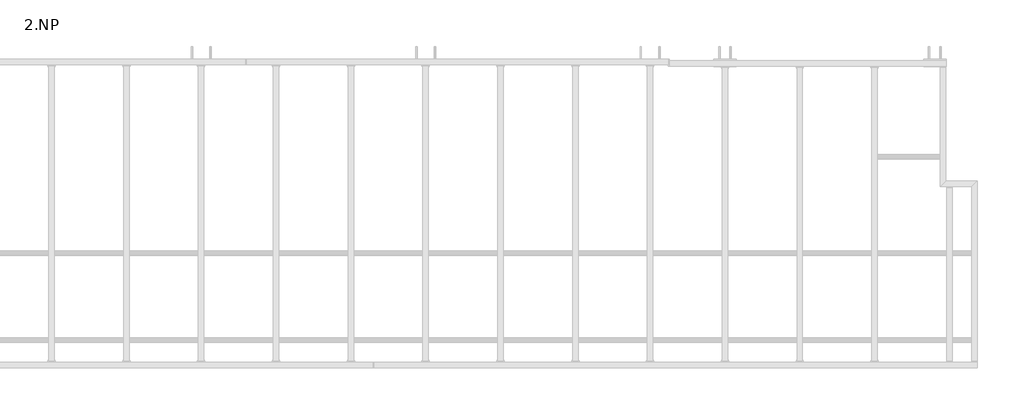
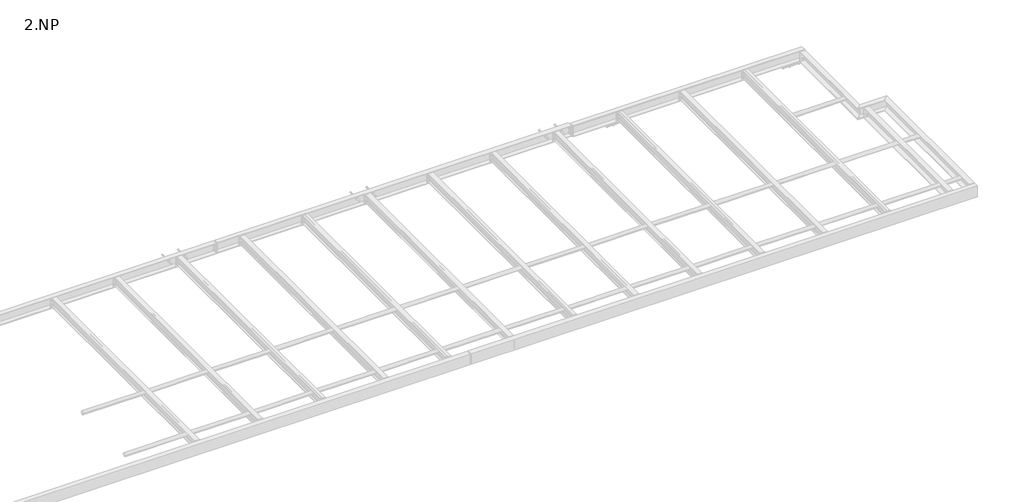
# One storey, part 17 of 18: 29 assemblies.
"""IFC4 building model written with IfcOpenShell, lengths in millimetres."""

from ifc_helpers import new_model, si_unit, point, frame, frame_2d, origin, place, context, project, spatial, polyline, circle_curve, trimmed, segment, composite_curve, outline, extrude, element, save

model = new_model("IFC4")

# Units and contexts
model_context = context("Model", 3, world=origin())
ifc_project = project(units=[si_unit("LENGTHUNIT", "METRE", prefix="MILLI")], contexts=[model_context])

# Site, building, storey
site = spatial("IfcSite", under=ifc_project)
building = spatial("IfcBuilding", under=site)
storey = spatial("IfcBuildingStorey", under=building, Name="2.NP", Elevation=3000.0)

# Assemblies
placement = place(None, origin())
element("IfcElementAssembly", 1, at=placement, inside=storey, context=model_context, shape_type="SweptSolid", body=[
    extrude(outline(composite_curve([segment(trimmed(circle_curve(frame_2d((1260.0, 3230.0)), 30.15), [point((1290.15, 3230.0))], [point((1229.85, 3230.0))], False, "CARTESIAN"), True, "CONTINUOUS"), segment(trimmed(circle_curve(frame_2d((1260.0, 3230.0)), 30.15), [point((1229.85, 3230.0))], [point((1290.15, 3230.0))], False, "CARTESIAN"), True, "CONTINUOUS")], self_intersect=False), holes=[composite_curve([segment(trimmed(circle_curve(frame_2d((1260.0, 3230.0)), 25.15), [point((1285.15, 3230.0))], [point((1234.85, 3230.0))], True, "CARTESIAN"), True, "CONTINUOUS"), segment(trimmed(circle_curve(frame_2d((1260.0, 3230.0)), 25.15), [point((1234.85, 3230.0))], [point((1285.15, 3230.0))], True, "CARTESIAN"), True, "CONTINUOUS")], self_intersect=False)]), frame((6052.35, 0.0, 0.0), z_axis=(1.0, 0.0, 0.0), x_axis=(0.0, 1.0, 0.0)), (0.0, 0.0, 1.0), 995.3),
])
element("IfcElementAssembly", 2, at=placement, inside=storey, context=model_context, shape_type="SweptSolid", body=[
    extrude(outline(composite_curve([segment(trimmed(circle_curve(frame_2d((1260.0, 3230.0)), 30.15), [point((1290.15, 3230.0))], [point((1229.85, 3230.0))], False, "CARTESIAN"), True, "CONTINUOUS"), segment(trimmed(circle_curve(frame_2d((1260.0, 3230.0)), 30.15), [point((1229.85, 3230.0))], [point((1290.15, 3230.0))], False, "CARTESIAN"), True, "CONTINUOUS")], self_intersect=False), holes=[composite_curve([segment(trimmed(circle_curve(frame_2d((1260.0, 3230.0)), 25.15), [point((1285.15, 3230.0))], [point((1234.85, 3230.0))], True, "CARTESIAN"), True, "CONTINUOUS"), segment(trimmed(circle_curve(frame_2d((1260.0, 3230.0)), 25.15), [point((1234.85, 3230.0))], [point((1285.15, 3230.0))], True, "CARTESIAN"), True, "CONTINUOUS")], self_intersect=False)]), frame((7052.35, 0.0, 0.0), z_axis=(1.0, 0.0, 0.0), x_axis=(0.0, 1.0, 0.0)), (0.0, 0.0, 1.0), 995.3),
])
element("IfcElementAssembly", 3, at=placement, inside=storey, context=model_context, shape_type="SweptSolid", body=[
    extrude(outline(composite_curve([segment(trimmed(circle_curve(frame_2d((1260.0, 3230.0)), 30.15), [point((1290.15, 3230.0))], [point((1229.85, 3230.0))], False, "CARTESIAN"), True, "CONTINUOUS"), segment(trimmed(circle_curve(frame_2d((1260.0, 3230.0)), 30.15), [point((1229.85, 3230.0))], [point((1290.15, 3230.0))], False, "CARTESIAN"), True, "CONTINUOUS")], self_intersect=False), holes=[composite_curve([segment(trimmed(circle_curve(frame_2d((1260.0, 3230.0)), 25.15), [point((1285.15, 3230.0))], [point((1234.85, 3230.0))], True, "CARTESIAN"), True, "CONTINUOUS"), segment(trimmed(circle_curve(frame_2d((1260.0, 3230.0)), 25.15), [point((1234.85, 3230.0))], [point((1285.15, 3230.0))], True, "CARTESIAN"), True, "CONTINUOUS")], self_intersect=False)]), frame((8052.35, 0.0, 0.0), z_axis=(1.0, 0.0, 0.0), x_axis=(0.0, 1.0, 0.0)), (0.0, 0.0, 1.0), 995.3),
])
element("IfcElementAssembly", 4, at=placement, inside=storey, context=model_context, shape_type="SweptSolid", body=[
    extrude(outline(composite_curve([segment(trimmed(circle_curve(frame_2d((1260.0, 3230.0)), 30.15), [point((1290.15, 3230.0))], [point((1229.85, 3230.0))], False, "CARTESIAN"), True, "CONTINUOUS"), segment(trimmed(circle_curve(frame_2d((1260.0, 3230.0)), 30.15), [point((1229.85, 3230.0))], [point((1290.15, 3230.0))], False, "CARTESIAN"), True, "CONTINUOUS")], self_intersect=False), holes=[composite_curve([segment(trimmed(circle_curve(frame_2d((1260.0, 3230.0)), 25.15), [point((1285.15, 3230.0))], [point((1234.85, 3230.0))], True, "CARTESIAN"), True, "CONTINUOUS"), segment(trimmed(circle_curve(frame_2d((1260.0, 3230.0)), 25.15), [point((1234.85, 3230.0))], [point((1285.15, 3230.0))], True, "CARTESIAN"), True, "CONTINUOUS")], self_intersect=False)]), frame((9052.35, 0.0, 0.0), z_axis=(1.0, 0.0, 0.0), x_axis=(0.0, 1.0, 0.0)), (0.0, 0.0, 1.0), 995.3),
])
element("IfcElementAssembly", 5, at=placement, inside=storey, context=model_context, shape_type="SweptSolid", body=[
    extrude(outline(composite_curve([segment(trimmed(circle_curve(frame_2d((1260.0, 3230.0)), 30.15), [point((1290.15, 3230.0))], [point((1229.85, 3230.0))], False, "CARTESIAN"), True, "CONTINUOUS"), segment(trimmed(circle_curve(frame_2d((1260.0, 3230.0)), 30.15), [point((1229.85, 3230.0))], [point((1290.15, 3230.0))], False, "CARTESIAN"), True, "CONTINUOUS")], self_intersect=False), holes=[composite_curve([segment(trimmed(circle_curve(frame_2d((1260.0, 3230.0)), 25.15), [point((1285.15, 3230.0))], [point((1234.85, 3230.0))], True, "CARTESIAN"), True, "CONTINUOUS"), segment(trimmed(circle_curve(frame_2d((1260.0, 3230.0)), 25.15), [point((1234.85, 3230.0))], [point((1285.15, 3230.0))], True, "CARTESIAN"), True, "CONTINUOUS")], self_intersect=False)]), frame((10052.35, 0.0, 0.0), z_axis=(1.0, 0.0, 0.0), x_axis=(0.0, 1.0, 0.0)), (0.0, 0.0, 1.0), 995.3),
])
element("IfcElementAssembly", 6, at=placement, inside=storey, context=model_context, shape_type="SweptSolid", body=[
    extrude(outline(composite_curve([segment(trimmed(circle_curve(frame_2d((1260.0, 3230.0)), 30.15), [point((1290.15, 3230.0))], [point((1229.85, 3230.0))], False, "CARTESIAN"), True, "CONTINUOUS"), segment(trimmed(circle_curve(frame_2d((1260.0, 3230.0)), 30.15), [point((1229.85, 3230.0))], [point((1290.15, 3230.0))], False, "CARTESIAN"), True, "CONTINUOUS")], self_intersect=False), holes=[composite_curve([segment(trimmed(circle_curve(frame_2d((1260.0, 3230.0)), 25.15), [point((1285.15, 3230.0))], [point((1234.85, 3230.0))], True, "CARTESIAN"), True, "CONTINUOUS"), segment(trimmed(circle_curve(frame_2d((1260.0, 3230.0)), 25.15), [point((1234.85, 3230.0))], [point((1285.15, 3230.0))], True, "CARTESIAN"), True, "CONTINUOUS")], self_intersect=False)]), frame((11052.35, 0.0, 0.0), z_axis=(1.0, 0.0, 0.0), x_axis=(0.0, 1.0, 0.0)), (0.0, 0.0, 1.0), 995.3),
])
element("IfcElementAssembly", 7, at=placement, inside=storey, context=model_context, shape_type="SweptSolid", body=[
    extrude(outline(composite_curve([segment(trimmed(circle_curve(frame_2d((1260.0, 3230.0)), 30.15), [point((1290.15, 3230.0))], [point((1229.85, 3230.0))], False, "CARTESIAN"), True, "CONTINUOUS"), segment(trimmed(circle_curve(frame_2d((1260.0, 3230.0)), 30.15), [point((1229.85, 3230.0))], [point((1290.15, 3230.0))], False, "CARTESIAN"), True, "CONTINUOUS")], self_intersect=False), holes=[composite_curve([segment(trimmed(circle_curve(frame_2d((1260.0, 3230.0)), 25.15), [point((1285.15, 3230.0))], [point((1234.85, 3230.0))], True, "CARTESIAN"), True, "CONTINUOUS"), segment(trimmed(circle_curve(frame_2d((1260.0, 3230.0)), 25.15), [point((1234.85, 3230.0))], [point((1285.15, 3230.0))], True, "CARTESIAN"), True, "CONTINUOUS")], self_intersect=False)]), frame((12052.35, 0.0, 0.0), z_axis=(1.0, 0.0, 0.0), x_axis=(0.0, 1.0, 0.0)), (0.0, 0.0, 1.0), 995.3),
])
element("IfcElementAssembly", 8, at=placement, inside=storey, context=model_context, shape_type="SweptSolid", body=[
    extrude(outline(composite_curve([segment(trimmed(circle_curve(frame_2d((1260.0, 3230.0)), 30.15), [point((1290.15, 3230.0))], [point((1229.85, 3230.0))], False, "CARTESIAN"), True, "CONTINUOUS"), segment(trimmed(circle_curve(frame_2d((1260.0, 3230.0)), 30.15), [point((1229.85, 3230.0))], [point((1290.15, 3230.0))], False, "CARTESIAN"), True, "CONTINUOUS")], self_intersect=False), holes=[composite_curve([segment(trimmed(circle_curve(frame_2d((1260.0, 3230.0)), 25.15), [point((1285.15, 3230.0))], [point((1234.85, 3230.0))], True, "CARTESIAN"), True, "CONTINUOUS"), segment(trimmed(circle_curve(frame_2d((1260.0, 3230.0)), 25.15), [point((1234.85, 3230.0))], [point((1285.15, 3230.0))], True, "CARTESIAN"), True, "CONTINUOUS")], self_intersect=False)]), frame((13052.35, 0.0, 0.0), z_axis=(1.0, 0.0, 0.0), x_axis=(0.0, 1.0, 0.0)), (0.0, 0.0, 1.0), 995.3),
])
element("IfcElementAssembly", 9, at=placement, inside=storey, context=model_context, shape_type="SweptSolid", body=[
    extrude(outline(composite_curve([segment(trimmed(circle_curve(frame_2d((1260.0, 3230.0)), 30.15), [point((1290.15, 3230.0))], [point((1229.85, 3230.0))], False, "CARTESIAN"), True, "CONTINUOUS"), segment(trimmed(circle_curve(frame_2d((1260.0, 3230.0)), 30.15), [point((1229.85, 3230.0))], [point((1290.15, 3230.0))], False, "CARTESIAN"), True, "CONTINUOUS")], self_intersect=False), holes=[composite_curve([segment(trimmed(circle_curve(frame_2d((1260.0, 3230.0)), 25.15), [point((1285.15, 3230.0))], [point((1234.85, 3230.0))], True, "CARTESIAN"), True, "CONTINUOUS"), segment(trimmed(circle_curve(frame_2d((1260.0, 3230.0)), 25.15), [point((1234.85, 3230.0))], [point((1285.15, 3230.0))], True, "CARTESIAN"), True, "CONTINUOUS")], self_intersect=False)]), frame((14052.4, 0.0, 0.0), z_axis=(1.0, 0.0, 0.0), x_axis=(0.0, 1.0, 0.0)), (0.0, 0.0, 1.0), 997.6),
])
element("IfcElementAssembly", 10, at=placement, inside=storey, context=model_context, shape_type="SweptSolid", body=[
    extrude(outline(composite_curve([segment(trimmed(circle_curve(frame_2d((1260.0, 3230.0)), 30.15), [point((1290.15, 3230.0))], [point((1229.85, 3230.0))], False, "CARTESIAN"), True, "CONTINUOUS"), segment(trimmed(circle_curve(frame_2d((1260.0, 3230.0)), 30.15), [point((1229.85, 3230.0))], [point((1290.15, 3230.0))], False, "CARTESIAN"), True, "CONTINUOUS")], self_intersect=False), holes=[composite_curve([segment(trimmed(circle_curve(frame_2d((1260.0, 3230.0)), 25.15), [point((1285.15, 3230.0))], [point((1234.85, 3230.0))], True, "CARTESIAN"), True, "CONTINUOUS"), segment(trimmed(circle_curve(frame_2d((1260.0, 3230.0)), 25.15), [point((1234.85, 3230.0))], [point((1285.15, 3230.0))], True, "CARTESIAN"), True, "CONTINUOUS")], self_intersect=False)]), frame((15050.0, 0.0, 0.0), z_axis=(1.0, 0.0, 0.0), x_axis=(0.0, 1.0, 0.0)), (0.0, 0.0, 1.0), 1034.5),
])
element("IfcElementAssembly", 11, at=placement, inside=storey, context=model_context, shape_type="SweptSolid", body=[
    extrude(outline(composite_curve([segment(trimmed(circle_curve(frame_2d((100.0, 3230.0)), 30.15), [point((130.15, 3230.0))], [point((69.85, 3230.0))], False, "CARTESIAN"), True, "CONTINUOUS"), segment(trimmed(circle_curve(frame_2d((100.0, 3230.0)), 30.15), [point((69.85, 3230.0))], [point((130.15, 3230.0))], False, "CARTESIAN"), True, "CONTINUOUS")], self_intersect=False), holes=[composite_curve([segment(trimmed(circle_curve(frame_2d((100.0, 3230.0)), 25.15), [point((125.15, 3230.0))], [point((74.85, 3230.0))], True, "CARTESIAN"), True, "CONTINUOUS"), segment(trimmed(circle_curve(frame_2d((100.0, 3230.0)), 25.15), [point((74.85, 3230.0))], [point((125.15, 3230.0))], True, "CARTESIAN"), True, "CONTINUOUS")], self_intersect=False)]), frame((6052.35, 0.0, 0.0), z_axis=(1.0, 0.0, 0.0), x_axis=(0.0, 1.0, 0.0)), (0.0, 0.0, 1.0), 995.3),
])
element("IfcElementAssembly", 12, at=placement, inside=storey, context=model_context, shape_type="SweptSolid", body=[
    extrude(outline(composite_curve([segment(trimmed(circle_curve(frame_2d((100.0, 3230.0)), 30.15), [point((130.15, 3230.0))], [point((69.85, 3230.0))], False, "CARTESIAN"), True, "CONTINUOUS"), segment(trimmed(circle_curve(frame_2d((100.0, 3230.0)), 30.15), [point((69.85, 3230.0))], [point((130.15, 3230.0))], False, "CARTESIAN"), True, "CONTINUOUS")], self_intersect=False), holes=[composite_curve([segment(trimmed(circle_curve(frame_2d((100.0, 3230.0)), 25.15), [point((125.15, 3230.0))], [point((74.85, 3230.0))], True, "CARTESIAN"), True, "CONTINUOUS"), segment(trimmed(circle_curve(frame_2d((100.0, 3230.0)), 25.15), [point((74.85, 3230.0))], [point((125.15, 3230.0))], True, "CARTESIAN"), True, "CONTINUOUS")], self_intersect=False)]), frame((7052.35, 0.0, 0.0), z_axis=(1.0, 0.0, 0.0), x_axis=(0.0, 1.0, 0.0)), (0.0, 0.0, 1.0), 995.3),
])
element("IfcElementAssembly", 13, at=placement, inside=storey, context=model_context, shape_type="SweptSolid", body=[
    extrude(outline(composite_curve([segment(trimmed(circle_curve(frame_2d((100.0, 3230.0)), 30.15), [point((130.15, 3230.0))], [point((69.85, 3230.0))], False, "CARTESIAN"), True, "CONTINUOUS"), segment(trimmed(circle_curve(frame_2d((100.0, 3230.0)), 30.15), [point((69.85, 3230.0))], [point((130.15, 3230.0))], False, "CARTESIAN"), True, "CONTINUOUS")], self_intersect=False), holes=[composite_curve([segment(trimmed(circle_curve(frame_2d((100.0, 3230.0)), 25.15), [point((125.15, 3230.0))], [point((74.85, 3230.0))], True, "CARTESIAN"), True, "CONTINUOUS"), segment(trimmed(circle_curve(frame_2d((100.0, 3230.0)), 25.15), [point((74.85, 3230.0))], [point((125.15, 3230.0))], True, "CARTESIAN"), True, "CONTINUOUS")], self_intersect=False)]), frame((8052.35, 0.0, 0.0), z_axis=(1.0, 0.0, 0.0), x_axis=(0.0, 1.0, 0.0)), (0.0, 0.0, 1.0), 995.3),
])
element("IfcElementAssembly", 14, at=placement, inside=storey, context=model_context, shape_type="SweptSolid", body=[
    extrude(outline(composite_curve([segment(trimmed(circle_curve(frame_2d((100.0, 3230.0)), 30.15), [point((130.15, 3230.0))], [point((69.85, 3230.0))], False, "CARTESIAN"), True, "CONTINUOUS"), segment(trimmed(circle_curve(frame_2d((100.0, 3230.0)), 30.15), [point((69.85, 3230.0))], [point((130.15, 3230.0))], False, "CARTESIAN"), True, "CONTINUOUS")], self_intersect=False), holes=[composite_curve([segment(trimmed(circle_curve(frame_2d((100.0, 3230.0)), 25.15), [point((125.15, 3230.0))], [point((74.85, 3230.0))], True, "CARTESIAN"), True, "CONTINUOUS"), segment(trimmed(circle_curve(frame_2d((100.0, 3230.0)), 25.15), [point((74.85, 3230.0))], [point((125.15, 3230.0))], True, "CARTESIAN"), True, "CONTINUOUS")], self_intersect=False)]), frame((9052.35, 0.0, 0.0), z_axis=(1.0, 0.0, 0.0), x_axis=(0.0, 1.0, 0.0)), (0.0, 0.0, 1.0), 995.3),
])
element("IfcElementAssembly", 15, at=placement, inside=storey, context=model_context, shape_type="SweptSolid", body=[
    extrude(outline(composite_curve([segment(trimmed(circle_curve(frame_2d((100.0, 3230.0)), 30.15), [point((130.15, 3230.0))], [point((69.85, 3230.0))], False, "CARTESIAN"), True, "CONTINUOUS"), segment(trimmed(circle_curve(frame_2d((100.0, 3230.0)), 30.15), [point((69.85, 3230.0))], [point((130.15, 3230.0))], False, "CARTESIAN"), True, "CONTINUOUS")], self_intersect=False), holes=[composite_curve([segment(trimmed(circle_curve(frame_2d((100.0, 3230.0)), 25.15), [point((125.15, 3230.0))], [point((74.85, 3230.0))], True, "CARTESIAN"), True, "CONTINUOUS"), segment(trimmed(circle_curve(frame_2d((100.0, 3230.0)), 25.15), [point((74.85, 3230.0))], [point((125.15, 3230.0))], True, "CARTESIAN"), True, "CONTINUOUS")], self_intersect=False)]), frame((10052.35, 0.0, 0.0), z_axis=(1.0, 0.0, 0.0), x_axis=(0.0, 1.0, 0.0)), (0.0, 0.0, 1.0), 995.3),
])
element("IfcElementAssembly", 16, at=placement, inside=storey, context=model_context, shape_type="SweptSolid", body=[
    extrude(outline(composite_curve([segment(trimmed(circle_curve(frame_2d((100.0, 3230.0)), 30.15), [point((130.15, 3230.0))], [point((69.85, 3230.0))], False, "CARTESIAN"), True, "CONTINUOUS"), segment(trimmed(circle_curve(frame_2d((100.0, 3230.0)), 30.15), [point((69.85, 3230.0))], [point((130.15, 3230.0))], False, "CARTESIAN"), True, "CONTINUOUS")], self_intersect=False), holes=[composite_curve([segment(trimmed(circle_curve(frame_2d((100.0, 3230.0)), 25.15), [point((125.15, 3230.0))], [point((74.85, 3230.0))], True, "CARTESIAN"), True, "CONTINUOUS"), segment(trimmed(circle_curve(frame_2d((100.0, 3230.0)), 25.15), [point((74.85, 3230.0))], [point((125.15, 3230.0))], True, "CARTESIAN"), True, "CONTINUOUS")], self_intersect=False)]), frame((11052.35, 0.0, 0.0), z_axis=(1.0, 0.0, 0.0), x_axis=(0.0, 1.0, 0.0)), (0.0, 0.0, 1.0), 995.3),
])
element("IfcElementAssembly", 17, at=placement, inside=storey, context=model_context, shape_type="SweptSolid", body=[
    extrude(outline(composite_curve([segment(trimmed(circle_curve(frame_2d((100.0, 3230.0)), 30.15), [point((130.15, 3230.0))], [point((69.85, 3230.0))], False, "CARTESIAN"), True, "CONTINUOUS"), segment(trimmed(circle_curve(frame_2d((100.0, 3230.0)), 30.15), [point((69.85, 3230.0))], [point((130.15, 3230.0))], False, "CARTESIAN"), True, "CONTINUOUS")], self_intersect=False), holes=[composite_curve([segment(trimmed(circle_curve(frame_2d((100.0, 3230.0)), 25.15), [point((125.15, 3230.0))], [point((74.85, 3230.0))], True, "CARTESIAN"), True, "CONTINUOUS"), segment(trimmed(circle_curve(frame_2d((100.0, 3230.0)), 25.15), [point((74.85, 3230.0))], [point((125.15, 3230.0))], True, "CARTESIAN"), True, "CONTINUOUS")], self_intersect=False)]), frame((12052.35, 0.0, 0.0), z_axis=(1.0, 0.0, 0.0), x_axis=(0.0, 1.0, 0.0)), (0.0, 0.0, 1.0), 995.3),
])
element("IfcElementAssembly", 18, at=placement, inside=storey, context=model_context, shape_type="SweptSolid", body=[
    extrude(outline(composite_curve([segment(trimmed(circle_curve(frame_2d((100.0, 3230.0)), 30.15), [point((130.15, 3230.0))], [point((69.85, 3230.0))], False, "CARTESIAN"), True, "CONTINUOUS"), segment(trimmed(circle_curve(frame_2d((100.0, 3230.0)), 30.15), [point((69.85, 3230.0))], [point((130.15, 3230.0))], False, "CARTESIAN"), True, "CONTINUOUS")], self_intersect=False), holes=[composite_curve([segment(trimmed(circle_curve(frame_2d((100.0, 3230.0)), 25.15), [point((125.15, 3230.0))], [point((74.85, 3230.0))], True, "CARTESIAN"), True, "CONTINUOUS"), segment(trimmed(circle_curve(frame_2d((100.0, 3230.0)), 25.15), [point((74.85, 3230.0))], [point((125.15, 3230.0))], True, "CARTESIAN"), True, "CONTINUOUS")], self_intersect=False)]), frame((13052.35, 0.0, 0.0), z_axis=(1.0, 0.0, 0.0), x_axis=(0.0, 1.0, 0.0)), (0.0, 0.0, 1.0), 995.3),
])
element("IfcElementAssembly", 19, at=placement, inside=storey, context=model_context, shape_type="SweptSolid", body=[
    extrude(outline(composite_curve([segment(trimmed(circle_curve(frame_2d((100.0, 3230.0)), 30.15), [point((130.15, 3230.0))], [point((69.85, 3230.0))], False, "CARTESIAN"), True, "CONTINUOUS"), segment(trimmed(circle_curve(frame_2d((100.0, 3230.0)), 30.15), [point((69.85, 3230.0))], [point((130.15, 3230.0))], False, "CARTESIAN"), True, "CONTINUOUS")], self_intersect=False), holes=[composite_curve([segment(trimmed(circle_curve(frame_2d((100.0, 3230.0)), 25.15), [point((125.15, 3230.0))], [point((74.85, 3230.0))], True, "CARTESIAN"), True, "CONTINUOUS"), segment(trimmed(circle_curve(frame_2d((100.0, 3230.0)), 25.15), [point((74.85, 3230.0))], [point((125.15, 3230.0))], True, "CARTESIAN"), True, "CONTINUOUS")], self_intersect=False)]), frame((14052.35, 0.0, 0.0), z_axis=(1.0, 0.0, 0.0), x_axis=(0.0, 1.0, 0.0)), (0.0, 0.0, 1.0), 995.3),
])
element("IfcElementAssembly", 20, at=placement, inside=storey, context=model_context, shape_type="SweptSolid", body=[
    extrude(outline(composite_curve([segment(trimmed(circle_curve(frame_2d((100.0, 3230.0)), 30.15), [point((130.15, 3230.0))], [point((69.85, 3230.0))], False, "CARTESIAN"), True, "CONTINUOUS"), segment(trimmed(circle_curve(frame_2d((100.0, 3230.0)), 30.15), [point((69.85, 3230.0))], [point((130.15, 3230.0))], False, "CARTESIAN"), True, "CONTINUOUS")], self_intersect=False), holes=[composite_curve([segment(trimmed(circle_curve(frame_2d((100.0, 3230.0)), 25.15), [point((125.15, 3230.0))], [point((74.85, 3230.0))], True, "CARTESIAN"), True, "CONTINUOUS"), segment(trimmed(circle_curve(frame_2d((100.0, 3230.0)), 25.15), [point((74.85, 3230.0))], [point((125.15, 3230.0))], True, "CARTESIAN"), True, "CONTINUOUS")], self_intersect=False)]), frame((15052.4, 0.0, 0.0), z_axis=(1.0, 0.0, 0.0), x_axis=(0.0, 1.0, 0.0)), (0.0, 0.0, 1.0), 1032.1),
])
element("IfcElementAssembly", 21, at=placement, inside=storey, context=model_context, shape_type="SweptSolid", body=[
    extrude(outline(composite_curve([segment(polyline([(3160.0, 6013.5), (3160.0, 6086.5), (3166.9000001, 6086.5), (3166.9000001, 6059.3499999)]), True, "CONTINUOUS"), segment(trimmed(circle_curve(frame_2d((3173.9000001, 6059.3499999)), 7.0), [point((3166.9000001, 6059.3499999))], [point((3173.9000001, 6052.3499999))], True, "CARTESIAN"), True, "CONTINUOUS"), segment(polyline([(3173.9000001, 6052.3499999), (3286.0999999, 6052.3499999)]), True, "CONTINUOUS"), segment(trimmed(circle_curve(frame_2d((3286.0999999, 6059.3499999)), 7.0), [point((3286.0999999, 6052.3499999))], [point((3293.0999999, 6059.3499999))], True, "CARTESIAN"), True, "CONTINUOUS"), segment(polyline([(3293.0999999, 6059.3499999), (3293.0999999, 6086.5), (3300.0, 6086.5), (3300.0, 6013.5), (3293.0999999, 6013.5), (3293.0999999, 6040.6500001)]), True, "CONTINUOUS"), segment(trimmed(circle_curve(frame_2d((3286.0999999, 6040.6500001)), 7.0), [point((3293.0999999, 6040.6500001))], [point((3286.0999999, 6047.6500001))], True, "CARTESIAN"), True, "CONTINUOUS"), segment(polyline([(3286.0999999, 6047.6500001), (3173.9000001, 6047.6500001)]), True, "CONTINUOUS"), segment(trimmed(circle_curve(frame_2d((3173.9000001, 6040.6500001)), 7.0), [point((3173.9000001, 6047.6500001))], [point((3166.9000001, 6040.6500001))], True, "CARTESIAN"), True, "CONTINUOUS"), segment(polyline([(3166.9000001, 6040.6500001), (3166.9000001, 6013.5), (3160.0, 6013.5)]), True, "CONTINUOUS")], self_intersect=False)), frame((0.0, -180.0, 0.0), z_axis=(0.0, 1.0, 0.0), x_axis=(0.0, 0.0, 1.0)), (0.0, 0.0, 1.0), 3947.0),
    extrude(outline(polyline([(6000.0, 3775.0), (6100.0, 3775.0), (6100.0, 3767.0), (6000.0, 3767.0), (6000.0, 3775.0)])), frame((0.0, 0.0, 3175.0), z_axis=(0.0, 0.0, 1.0), x_axis=(1.0, 0.0, 0.0)), (0.0, 0.0, 1.0), 110.0),
    extrude(outline(polyline([(6000.0, -180.0), (6100.0, -180.0), (6100.0, -190.0), (6000.0, -190.0), (6000.0, -180.0)])), frame((0.0, 0.0, 3166.5), z_axis=(0.0, 0.0, 1.0), x_axis=(1.0, 0.0, 0.0)), (0.0, 0.0, 1.0), 127.0),
])
element("IfcElementAssembly", 22, at=placement, inside=storey, context=model_context, shape_type="SweptSolid", body=[
    extrude(outline(composite_curve([segment(polyline([(3160.0, 7013.5), (3160.0, 7086.5), (3166.9000001, 7086.5), (3166.9000001, 7059.3499999)]), True, "CONTINUOUS"), segment(trimmed(circle_curve(frame_2d((3173.9000001, 7059.3499999)), 7.0), [point((3166.9000001, 7059.3499999))], [point((3173.9000001, 7052.3499999))], True, "CARTESIAN"), True, "CONTINUOUS"), segment(polyline([(3173.9000001, 7052.3499999), (3286.0999999, 7052.3499999)]), True, "CONTINUOUS"), segment(trimmed(circle_curve(frame_2d((3286.0999999, 7059.3499999)), 7.0), [point((3286.0999999, 7052.3499999))], [point((3293.0999999, 7059.3499999))], True, "CARTESIAN"), True, "CONTINUOUS"), segment(polyline([(3293.0999999, 7059.3499999), (3293.0999999, 7086.5), (3300.0, 7086.5), (3300.0, 7013.5), (3293.0999999, 7013.5), (3293.0999999, 7040.6500001)]), True, "CONTINUOUS"), segment(trimmed(circle_curve(frame_2d((3286.0999999, 7040.6500001)), 7.0), [point((3293.0999999, 7040.6500001))], [point((3286.0999999, 7047.6500001))], True, "CARTESIAN"), True, "CONTINUOUS"), segment(polyline([(3286.0999999, 7047.6500001), (3173.9000001, 7047.6500001)]), True, "CONTINUOUS"), segment(trimmed(circle_curve(frame_2d((3173.9000001, 7040.6500001)), 7.0), [point((3173.9000001, 7047.6500001))], [point((3166.9000001, 7040.6500001))], True, "CARTESIAN"), True, "CONTINUOUS"), segment(polyline([(3166.9000001, 7040.6500001), (3166.9000001, 7013.5), (3160.0, 7013.5)]), True, "CONTINUOUS")], self_intersect=False)), frame((0.0, -180.0, 0.0), z_axis=(0.0, 1.0, 0.0), x_axis=(0.0, 0.0, 1.0)), (0.0, 0.0, 1.0), 3947.0),
    extrude(outline(polyline([(7000.0, 3775.0), (7100.0, 3775.0), (7100.0, 3767.0), (7000.0, 3767.0), (7000.0, 3775.0)])), frame((0.0, 0.0, 3175.0), z_axis=(0.0, 0.0, 1.0), x_axis=(1.0, 0.0, 0.0)), (0.0, 0.0, 1.0), 110.0),
    extrude(outline(polyline([(7000.0, -180.0), (7100.0, -180.0), (7100.0, -190.0), (7000.0, -190.0), (7000.0, -180.0)])), frame((0.0, 0.0, 3166.5), z_axis=(0.0, 0.0, 1.0), x_axis=(1.0, 0.0, 0.0)), (0.0, 0.0, 1.0), 127.0),
])
element("IfcElementAssembly", 23, at=placement, inside=storey, context=model_context, shape_type="SweptSolid", body=[
    extrude(outline(composite_curve([segment(polyline([(3160.0, 8013.5), (3160.0, 8086.5), (3166.9000001, 8086.5), (3166.9000001, 8059.3499999)]), True, "CONTINUOUS"), segment(trimmed(circle_curve(frame_2d((3173.9000001, 8059.3499999)), 7.0), [point((3166.9000001, 8059.3499999))], [point((3173.9000001, 8052.3499999))], True, "CARTESIAN"), True, "CONTINUOUS"), segment(polyline([(3173.9000001, 8052.3499999), (3286.0999999, 8052.3499999)]), True, "CONTINUOUS"), segment(trimmed(circle_curve(frame_2d((3286.0999999, 8059.3499999)), 7.0), [point((3286.0999999, 8052.3499999))], [point((3293.0999999, 8059.3499999))], True, "CARTESIAN"), True, "CONTINUOUS"), segment(polyline([(3293.0999999, 8059.3499999), (3293.0999999, 8086.5), (3300.0, 8086.5), (3300.0, 8013.5), (3293.0999999, 8013.5), (3293.0999999, 8040.6500001)]), True, "CONTINUOUS"), segment(trimmed(circle_curve(frame_2d((3286.0999999, 8040.6500001)), 7.0), [point((3293.0999999, 8040.6500001))], [point((3286.0999999, 8047.6500001))], True, "CARTESIAN"), True, "CONTINUOUS"), segment(polyline([(3286.0999999, 8047.6500001), (3173.9000001, 8047.6500001)]), True, "CONTINUOUS"), segment(trimmed(circle_curve(frame_2d((3173.9000001, 8040.6500001)), 7.0), [point((3173.9000001, 8047.6500001))], [point((3166.9000001, 8040.6500001))], True, "CARTESIAN"), True, "CONTINUOUS"), segment(polyline([(3166.9000001, 8040.6500001), (3166.9000001, 8013.5), (3160.0, 8013.5)]), True, "CONTINUOUS")], self_intersect=False)), frame((0.0, -180.0, 0.0), z_axis=(0.0, 1.0, 0.0), x_axis=(0.0, 0.0, 1.0)), (0.0, 0.0, 1.0), 3947.0),
    extrude(outline(polyline([(8000.0, 3775.0), (8100.0, 3775.0), (8100.0, 3767.0), (8000.0, 3767.0), (8000.0, 3775.0)])), frame((0.0, 0.0, 3175.0), z_axis=(0.0, 0.0, 1.0), x_axis=(1.0, 0.0, 0.0)), (0.0, 0.0, 1.0), 110.0),
    extrude(outline(polyline([(8000.0, -180.0), (8100.0, -180.0), (8100.0, -190.0), (8000.0, -190.0), (8000.0, -180.0)])), frame((0.0, 0.0, 3166.5), z_axis=(0.0, 0.0, 1.0), x_axis=(1.0, 0.0, 0.0)), (0.0, 0.0, 1.0), 127.0),
])
element("IfcElementAssembly", 24, at=placement, inside=storey, context=model_context, shape_type="SweptSolid", body=[
    extrude(outline(composite_curve([segment(polyline([(3160.0, 9013.5), (3160.0, 9086.5), (3166.9000001, 9086.5), (3166.9000001, 9059.3499999)]), True, "CONTINUOUS"), segment(trimmed(circle_curve(frame_2d((3173.9000001, 9059.3499999)), 7.0), [point((3166.9000001, 9059.3499999))], [point((3173.9000001, 9052.3499999))], True, "CARTESIAN"), True, "CONTINUOUS"), segment(polyline([(3173.9000001, 9052.3499999), (3286.0999999, 9052.3499999)]), True, "CONTINUOUS"), segment(trimmed(circle_curve(frame_2d((3286.0999999, 9059.3499999)), 7.0), [point((3286.0999999, 9052.3499999))], [point((3293.0999999, 9059.3499999))], True, "CARTESIAN"), True, "CONTINUOUS"), segment(polyline([(3293.0999999, 9059.3499999), (3293.0999999, 9086.5), (3300.0, 9086.5), (3300.0, 9013.5), (3293.0999999, 9013.5), (3293.0999999, 9040.6500001)]), True, "CONTINUOUS"), segment(trimmed(circle_curve(frame_2d((3286.0999999, 9040.6500001)), 7.0), [point((3293.0999999, 9040.6500001))], [point((3286.0999999, 9047.6500001))], True, "CARTESIAN"), True, "CONTINUOUS"), segment(polyline([(3286.0999999, 9047.6500001), (3173.9000001, 9047.6500001)]), True, "CONTINUOUS"), segment(trimmed(circle_curve(frame_2d((3173.9000001, 9040.6500001)), 7.0), [point((3173.9000001, 9047.6500001))], [point((3166.9000001, 9040.6500001))], True, "CARTESIAN"), True, "CONTINUOUS"), segment(polyline([(3166.9000001, 9040.6500001), (3166.9000001, 9013.5), (3160.0, 9013.5)]), True, "CONTINUOUS")], self_intersect=False)), frame((0.0, -180.0, 0.0), z_axis=(0.0, 1.0, 0.0), x_axis=(0.0, 0.0, 1.0)), (0.0, 0.0, 1.0), 3947.0),
    extrude(outline(polyline([(9000.0, 3775.0), (9100.0, 3775.0), (9100.0, 3767.0), (9000.0, 3767.0), (9000.0, 3775.0)])), frame((0.0, 0.0, 3175.0), z_axis=(0.0, 0.0, 1.0), x_axis=(1.0, 0.0, 0.0)), (0.0, 0.0, 1.0), 110.0),
    extrude(outline(polyline([(9000.0, -180.0), (9100.0, -180.0), (9100.0, -190.0), (9000.0, -190.0), (9000.0, -180.0)])), frame((0.0, 0.0, 3166.5), z_axis=(0.0, 0.0, 1.0), x_axis=(1.0, 0.0, 0.0)), (0.0, 0.0, 1.0), 127.0),
])
element("IfcElementAssembly", 25, at=placement, inside=storey, context=model_context, shape_type="SweptSolid", body=[
    extrude(outline(composite_curve([segment(polyline([(3160.0, 10013.5), (3160.0, 10086.5), (3166.9000001, 10086.5), (3166.9000001, 10059.3499999)]), True, "CONTINUOUS"), segment(trimmed(circle_curve(frame_2d((3173.9000001, 10059.3499999)), 7.0), [point((3166.9000001, 10059.3499999))], [point((3173.9000001, 10052.3499999))], True, "CARTESIAN"), True, "CONTINUOUS"), segment(polyline([(3173.9000001, 10052.3499999), (3286.0999999, 10052.3499999)]), True, "CONTINUOUS"), segment(trimmed(circle_curve(frame_2d((3286.0999999, 10059.3499999)), 7.0), [point((3286.0999999, 10052.3499999))], [point((3293.0999999, 10059.3499999))], True, "CARTESIAN"), True, "CONTINUOUS"), segment(polyline([(3293.0999999, 10059.3499999), (3293.0999999, 10086.5), (3300.0, 10086.5), (3300.0, 10013.5), (3293.0999999, 10013.5), (3293.0999999, 10040.6500001)]), True, "CONTINUOUS"), segment(trimmed(circle_curve(frame_2d((3286.0999999, 10040.6500001)), 7.0), [point((3293.0999999, 10040.6500001))], [point((3286.0999999, 10047.6500001))], True, "CARTESIAN"), True, "CONTINUOUS"), segment(polyline([(3286.0999999, 10047.6500001), (3173.9000001, 10047.6500001)]), True, "CONTINUOUS"), segment(trimmed(circle_curve(frame_2d((3173.9000001, 10040.6500001)), 7.0), [point((3173.9000001, 10047.6500001))], [point((3166.9000001, 10040.6500001))], True, "CARTESIAN"), True, "CONTINUOUS"), segment(polyline([(3166.9000001, 10040.6500001), (3166.9000001, 10013.5), (3160.0, 10013.5)]), True, "CONTINUOUS")], self_intersect=False)), frame((0.0, -180.0, 0.0), z_axis=(0.0, 1.0, 0.0), x_axis=(0.0, 0.0, 1.0)), (0.0, 0.0, 1.0), 3947.0),
    extrude(outline(polyline([(10000.0, 3775.0), (10100.0, 3775.0), (10100.0, 3767.0), (10000.0, 3767.0), (10000.0, 3775.0)])), frame((0.0, 0.0, 3175.0), z_axis=(0.0, 0.0, 1.0), x_axis=(1.0, 0.0, 0.0)), (0.0, 0.0, 1.0), 110.0),
    extrude(outline(polyline([(10000.0, -180.0), (10100.0, -180.0), (10100.0, -190.0), (10000.0, -190.0), (10000.0, -180.0)])), frame((0.0, 0.0, 3166.5), z_axis=(0.0, 0.0, 1.0), x_axis=(1.0, 0.0, 0.0)), (0.0, 0.0, 1.0), 127.0),
])
element("IfcElementAssembly", 26, at=placement, inside=storey, context=model_context, shape_type="SweptSolid", body=[
    extrude(outline(composite_curve([segment(polyline([(3160.0, 11013.5), (3160.0, 11086.5), (3166.9000001, 11086.5), (3166.9000001, 11059.3499999)]), True, "CONTINUOUS"), segment(trimmed(circle_curve(frame_2d((3173.9000001, 11059.3499999)), 7.0), [point((3166.9000001, 11059.3499999))], [point((3173.9000001, 11052.3499999))], True, "CARTESIAN"), True, "CONTINUOUS"), segment(polyline([(3173.9000001, 11052.3499999), (3286.0999999, 11052.3499999)]), True, "CONTINUOUS"), segment(trimmed(circle_curve(frame_2d((3286.0999999, 11059.3499999)), 7.0), [point((3286.0999999, 11052.3499999))], [point((3293.0999999, 11059.3499999))], True, "CARTESIAN"), True, "CONTINUOUS"), segment(polyline([(3293.0999999, 11059.3499999), (3293.0999999, 11086.5), (3300.0, 11086.5), (3300.0, 11013.5), (3293.0999999, 11013.5), (3293.0999999, 11040.6500001)]), True, "CONTINUOUS"), segment(trimmed(circle_curve(frame_2d((3286.0999999, 11040.6500001)), 7.0), [point((3293.0999999, 11040.6500001))], [point((3286.0999999, 11047.6500001))], True, "CARTESIAN"), True, "CONTINUOUS"), segment(polyline([(3286.0999999, 11047.6500001), (3173.9000001, 11047.6500001)]), True, "CONTINUOUS"), segment(trimmed(circle_curve(frame_2d((3173.9000001, 11040.6500001)), 7.0), [point((3173.9000001, 11047.6500001))], [point((3166.9000001, 11040.6500001))], True, "CARTESIAN"), True, "CONTINUOUS"), segment(polyline([(3166.9000001, 11040.6500001), (3166.9000001, 11013.5), (3160.0, 11013.5)]), True, "CONTINUOUS")], self_intersect=False)), frame((0.0, -180.0, 0.0), z_axis=(0.0, 1.0, 0.0), x_axis=(0.0, 0.0, 1.0)), (0.0, 0.0, 1.0), 3947.0),
    extrude(outline(polyline([(11000.0, 3775.0), (11100.0, 3775.0), (11100.0, 3767.0), (11000.0, 3767.0), (11000.0, 3775.0)])), frame((0.0, 0.0, 3175.0), z_axis=(0.0, 0.0, 1.0), x_axis=(1.0, 0.0, 0.0)), (0.0, 0.0, 1.0), 110.0),
    extrude(outline(polyline([(11000.0, -180.0), (11100.0, -180.0), (11100.0, -190.0), (11000.0, -190.0), (11000.0, -180.0)])), frame((0.0, 0.0, 3166.5), z_axis=(0.0, 0.0, 1.0), x_axis=(1.0, 0.0, 0.0)), (0.0, 0.0, 1.0), 127.0),
])
element("IfcElementAssembly", 27, at=placement, inside=storey, context=model_context, shape_type="SweptSolid", body=[
    extrude(outline(composite_curve([segment(polyline([(3160.0, 12013.5), (3160.0, 12086.5), (3166.9000001, 12086.5), (3166.9000001, 12059.3499999)]), True, "CONTINUOUS"), segment(trimmed(circle_curve(frame_2d((3173.9000001, 12059.3499999)), 7.0), [point((3166.9000001, 12059.3499999))], [point((3173.9000001, 12052.3499999))], True, "CARTESIAN"), True, "CONTINUOUS"), segment(polyline([(3173.9000001, 12052.3499999), (3286.0999999, 12052.3499999)]), True, "CONTINUOUS"), segment(trimmed(circle_curve(frame_2d((3286.0999999, 12059.3499999)), 7.0), [point((3286.0999999, 12052.3499999))], [point((3293.0999999, 12059.3499999))], True, "CARTESIAN"), True, "CONTINUOUS"), segment(polyline([(3293.0999999, 12059.3499999), (3293.0999999, 12086.5), (3300.0, 12086.5), (3300.0, 12013.5), (3293.0999999, 12013.5), (3293.0999999, 12040.6500001)]), True, "CONTINUOUS"), segment(trimmed(circle_curve(frame_2d((3286.0999999, 12040.6500001)), 7.0), [point((3293.0999999, 12040.6500001))], [point((3286.0999999, 12047.6500001))], True, "CARTESIAN"), True, "CONTINUOUS"), segment(polyline([(3286.0999999, 12047.6500001), (3173.9000001, 12047.6500001)]), True, "CONTINUOUS"), segment(trimmed(circle_curve(frame_2d((3173.9000001, 12040.6500001)), 7.0), [point((3173.9000001, 12047.6500001))], [point((3166.9000001, 12040.6500001))], True, "CARTESIAN"), True, "CONTINUOUS"), segment(polyline([(3166.9000001, 12040.6500001), (3166.9000001, 12013.5), (3160.0, 12013.5)]), True, "CONTINUOUS")], self_intersect=False)), frame((0.0, -180.0, 0.0), z_axis=(0.0, 1.0, 0.0), x_axis=(0.0, 0.0, 1.0)), (0.0, 0.0, 1.0), 3947.0),
    extrude(outline(polyline([(12000.0, 3775.0), (12100.0, 3775.0), (12100.0, 3767.0), (12000.0, 3767.0), (12000.0, 3775.0)])), frame((0.0, 0.0, 3175.0), z_axis=(0.0, 0.0, 1.0), x_axis=(1.0, 0.0, 0.0)), (0.0, 0.0, 1.0), 110.0),
    extrude(outline(polyline([(12000.0, -180.0), (12100.0, -180.0), (12100.0, -190.0), (12000.0, -190.0), (12000.0, -180.0)])), frame((0.0, 0.0, 3166.5), z_axis=(0.0, 0.0, 1.0), x_axis=(1.0, 0.0, 0.0)), (0.0, 0.0, 1.0), 127.0),
])
element("IfcElementAssembly", 28, at=placement, inside=storey, context=model_context, shape_type="SweptSolid", body=[
    extrude(outline(composite_curve([segment(polyline([(3160.0, 13013.5), (3160.0, 13086.5), (3166.9000001, 13086.5), (3166.9000001, 13059.3499999)]), True, "CONTINUOUS"), segment(trimmed(circle_curve(frame_2d((3173.9000001, 13059.3499999)), 7.0), [point((3166.9000001, 13059.3499999))], [point((3173.9000001, 13052.3499999))], True, "CARTESIAN"), True, "CONTINUOUS"), segment(polyline([(3173.9000001, 13052.3499999), (3286.0999999, 13052.3499999)]), True, "CONTINUOUS"), segment(trimmed(circle_curve(frame_2d((3286.0999999, 13059.3499999)), 7.0), [point((3286.0999999, 13052.3499999))], [point((3293.0999999, 13059.3499999))], True, "CARTESIAN"), True, "CONTINUOUS"), segment(polyline([(3293.0999999, 13059.3499999), (3293.0999999, 13086.5), (3300.0, 13086.5), (3300.0, 13013.5), (3293.0999999, 13013.5), (3293.0999999, 13040.6500001)]), True, "CONTINUOUS"), segment(trimmed(circle_curve(frame_2d((3286.0999999, 13040.6500001)), 7.0), [point((3293.0999999, 13040.6500001))], [point((3286.0999999, 13047.6500001))], True, "CARTESIAN"), True, "CONTINUOUS"), segment(polyline([(3286.0999999, 13047.6500001), (3173.9000001, 13047.6500001)]), True, "CONTINUOUS"), segment(trimmed(circle_curve(frame_2d((3173.9000001, 13040.6500001)), 7.0), [point((3173.9000001, 13047.6500001))], [point((3166.9000001, 13040.6500001))], True, "CARTESIAN"), True, "CONTINUOUS"), segment(polyline([(3166.9000001, 13040.6500001), (3166.9000001, 13013.5), (3160.0, 13013.5)]), True, "CONTINUOUS")], self_intersect=False)), frame((0.0, -180.0, 0.0), z_axis=(0.0, 1.0, 0.0), x_axis=(0.0, 0.0, 1.0)), (0.0, 0.0, 1.0), 3927.0),
    extrude(outline(polyline([(13000.0, 3755.0), (13100.0, 3755.0), (13100.0, 3747.0), (13000.0, 3747.0), (13000.0, 3755.0)])), frame((0.0, 0.0, 3175.0), z_axis=(0.0, 0.0, 1.0), x_axis=(1.0, 0.0, 0.0)), (0.0, 0.0, 1.0), 110.0),
    extrude(outline(polyline([(13000.0, -180.0), (13100.0, -180.0), (13100.0, -190.0), (13000.0, -190.0), (13000.0, -180.0)])), frame((0.0, 0.0, 3166.5), z_axis=(0.0, 0.0, 1.0), x_axis=(1.0, 0.0, 0.0)), (0.0, 0.0, 1.0), 127.0),
])
element("IfcElementAssembly", 29, at=placement, inside=storey, context=model_context, shape_type="SweptSolid", body=[
    extrude(outline(composite_curve([segment(polyline([(3160.0, 14013.5), (3160.0, 14086.5), (3166.9000001, 14086.5), (3166.9000001, 14059.3499999)]), True, "CONTINUOUS"), segment(trimmed(circle_curve(frame_2d((3173.9000001, 14059.3499999)), 7.0), [point((3166.9000001, 14059.3499999))], [point((3173.9000001, 14052.3499999))], True, "CARTESIAN"), True, "CONTINUOUS"), segment(polyline([(3173.9000001, 14052.3499999), (3286.0999999, 14052.3499999)]), True, "CONTINUOUS"), segment(trimmed(circle_curve(frame_2d((3286.0999999, 14059.3499999)), 7.0), [point((3286.0999999, 14052.3499999))], [point((3293.0999999, 14059.3499999))], True, "CARTESIAN"), True, "CONTINUOUS"), segment(polyline([(3293.0999999, 14059.3499999), (3293.0999999, 14086.5), (3300.0, 14086.5), (3300.0, 14013.5), (3293.0999999, 14013.5), (3293.0999999, 14040.6500001)]), True, "CONTINUOUS"), segment(trimmed(circle_curve(frame_2d((3286.0999999, 14040.6500001)), 7.0), [point((3293.0999999, 14040.6500001))], [point((3286.0999999, 14047.6500001))], True, "CARTESIAN"), True, "CONTINUOUS"), segment(polyline([(3286.0999999, 14047.6500001), (3173.9000001, 14047.6500001)]), True, "CONTINUOUS"), segment(trimmed(circle_curve(frame_2d((3173.9000001, 14040.6500001)), 7.0), [point((3173.9000001, 14047.6500001))], [point((3166.9000001, 14040.6500001))], True, "CARTESIAN"), True, "CONTINUOUS"), segment(polyline([(3166.9000001, 14040.6500001), (3166.9000001, 14013.5), (3160.0, 14013.5)]), True, "CONTINUOUS")], self_intersect=False)), frame((0.0, -180.0, 0.0), z_axis=(0.0, 1.0, 0.0), x_axis=(0.0, 0.0, 1.0)), (0.0, 0.0, 1.0), 3927.0),
    extrude(outline(polyline([(14000.0, 3755.0), (14100.0, 3755.0), (14100.0, 3747.0), (14000.0, 3747.0), (14000.0, 3755.0)])), frame((0.0, 0.0, 3175.0), z_axis=(0.0, 0.0, 1.0), x_axis=(1.0, 0.0, 0.0)), (0.0, 0.0, 1.0), 110.0),
    extrude(outline(polyline([(14000.0, -180.0), (14100.0, -180.0), (14100.0, -190.0), (14000.0, -190.0), (14000.0, -180.0)])), frame((0.0, 0.0, 3166.5), z_axis=(0.0, 0.0, 1.0), x_axis=(1.0, 0.0, 0.0)), (0.0, 0.0, 1.0), 127.0),
])

save(model, "model.ifc")
